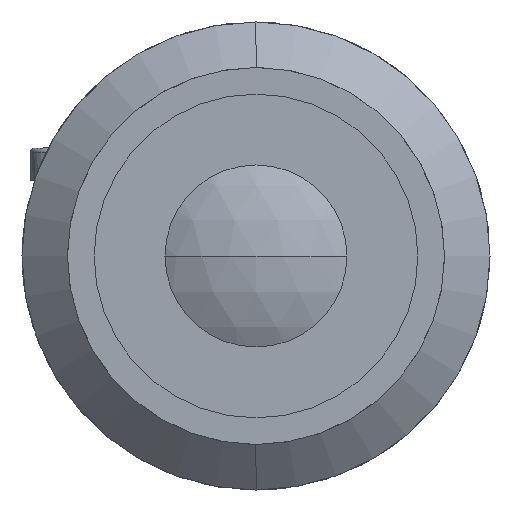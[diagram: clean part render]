
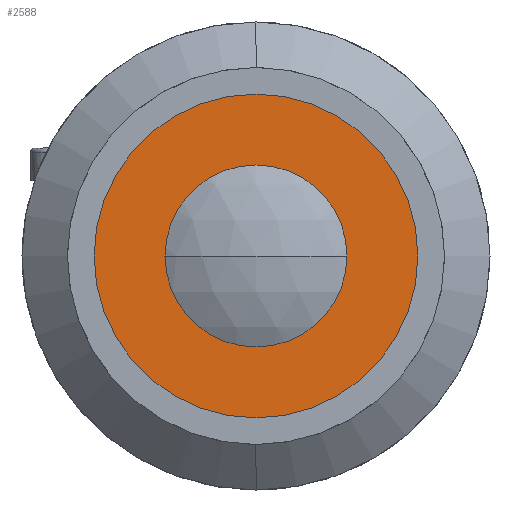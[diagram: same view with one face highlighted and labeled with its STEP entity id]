
A CAD part, left-side view. The second image highlights one B-rep face of the part: STEP entity #2588.
In plain terms, the highlighted planar face has unit normal (-1, 0, 0).
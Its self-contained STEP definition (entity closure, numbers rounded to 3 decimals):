
#142 = DIRECTION ( 'NONE',  ( -1., 0., 0. ) ) ;
#193 = ORIENTED_EDGE ( 'NONE', *, *, #2080, .F. ) ;
#273 = CARTESIAN_POINT ( 'NONE',  ( 3.8, 0., 0. ) ) ;
#467 = AXIS2_PLACEMENT_3D ( 'NONE', #1712, #142, #1987 ) ;
#554 = DIRECTION ( 'NONE',  ( 0., 0., 1. ) ) ;
#600 = ORIENTED_EDGE ( 'NONE', *, *, #3050, .T. ) ;
#833 = CARTESIAN_POINT ( 'NONE',  ( 3.8, 0., 0. ) ) ;
#1019 = ORIENTED_EDGE ( 'NONE', *, *, #3084, .T. ) ;
#1025 = VERTEX_POINT ( 'NONE', #1177 ) ;
#1096 = DIRECTION ( 'NONE',  ( 0., 0., 1. ) ) ;
#1169 = CARTESIAN_POINT ( 'NONE',  ( 3.8, 0., 0. ) ) ;
#1177 = CARTESIAN_POINT ( 'NONE',  ( 3.8, 0., 13.5 ) ) ;
#1194 = PLANE ( 'NONE',  #1854 ) ;
#1228 = VERTEX_POINT ( 'NONE', #1446 ) ;
#1324 = CARTESIAN_POINT ( 'NONE',  ( 3.8, 0., -7. ) ) ;
#1358 = CIRCLE ( 'NONE', #2909, 13.5 ) ;
#1418 = DIRECTION ( 'NONE',  ( 0., 0., 1. ) ) ;
#1445 = CARTESIAN_POINT ( 'NONE',  ( 3.8, 13.5, 0. ) ) ;
#1446 = CARTESIAN_POINT ( 'NONE',  ( 3.8, 0., -13.5 ) ) ;
#1612 = CIRCLE ( 'NONE', #467, 7. ) ;
#1712 = CARTESIAN_POINT ( 'NONE',  ( 3.8, 0., 0. ) ) ;
#1720 = DIRECTION ( 'NONE',  ( 0., 0., -1. ) ) ;
#1735 = EDGE_LOOP ( 'NONE', ( #2968, #193 ) ) ;
#1854 = AXIS2_PLACEMENT_3D ( 'NONE', #1445, #3340, #1720 ) ;
#1865 = FACE_OUTER_BOUND ( 'NONE', #2516, .T. ) ;
#1987 = DIRECTION ( 'NONE',  ( 0., 0., 1. ) ) ;
#2080 = EDGE_CURVE ( 'NONE', #2345, #2735, #1612, .T. ) ;
#2134 = DIRECTION ( 'NONE',  ( -1., 0., 0. ) ) ;
#2345 = VERTEX_POINT ( 'NONE', #1324 ) ;
#2516 = EDGE_LOOP ( 'NONE', ( #600, #1019 ) ) ;
#2530 = FACE_BOUND ( 'NONE', #1735, .T. ) ;
#2588 = ADVANCED_FACE ( 'NONE', ( #2530, #1865 ), #1194, .F. ) ;
#2676 = AXIS2_PLACEMENT_3D ( 'NONE', #1169, #3057, #1418 ) ;
#2722 = DIRECTION ( 'NONE',  ( -1., 0., 0. ) ) ;
#2735 = VERTEX_POINT ( 'NONE', #3152 ) ;
#2909 = AXIS2_PLACEMENT_3D ( 'NONE', #833, #2722, #1096 ) ;
#2967 = AXIS2_PLACEMENT_3D ( 'NONE', #273, #2134, #554 ) ;
#2968 = ORIENTED_EDGE ( 'NONE', *, *, #3202, .F. ) ;
#2984 = CIRCLE ( 'NONE', #2967, 13.5 ) ;
#3050 = EDGE_CURVE ( 'NONE', #1025, #1228, #2984, .T. ) ;
#3057 = DIRECTION ( 'NONE',  ( -1., 0., 0. ) ) ;
#3084 = EDGE_CURVE ( 'NONE', #1228, #1025, #1358, .T. ) ;
#3152 = CARTESIAN_POINT ( 'NONE',  ( 3.8, 0., 7. ) ) ;
#3202 = EDGE_CURVE ( 'NONE', #2735, #2345, #3270, .T. ) ;
#3270 = CIRCLE ( 'NONE', #2676, 7. ) ;
#3340 = DIRECTION ( 'NONE',  ( 1., 0., 0. ) ) ;
